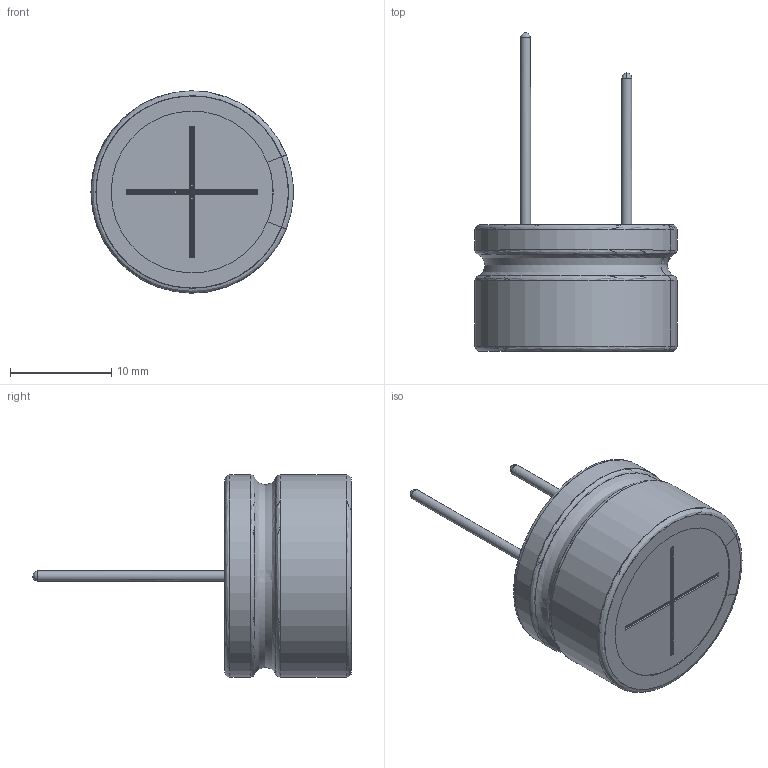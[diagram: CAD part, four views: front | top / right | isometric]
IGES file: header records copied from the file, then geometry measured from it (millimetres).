
Start section: JAMA-IS VERSION  1.0
Bounding box: 19.97 x 31.5 x 20 mm (x, y, z)
Surface area: 3546.8 mm2 (no closed solid volume)
Topology: 0 solids, 0 shells, 100 faces, 1336 edges, 1316 vertices
Faces by surface type: bspline 100
